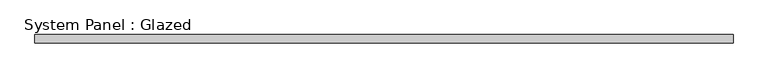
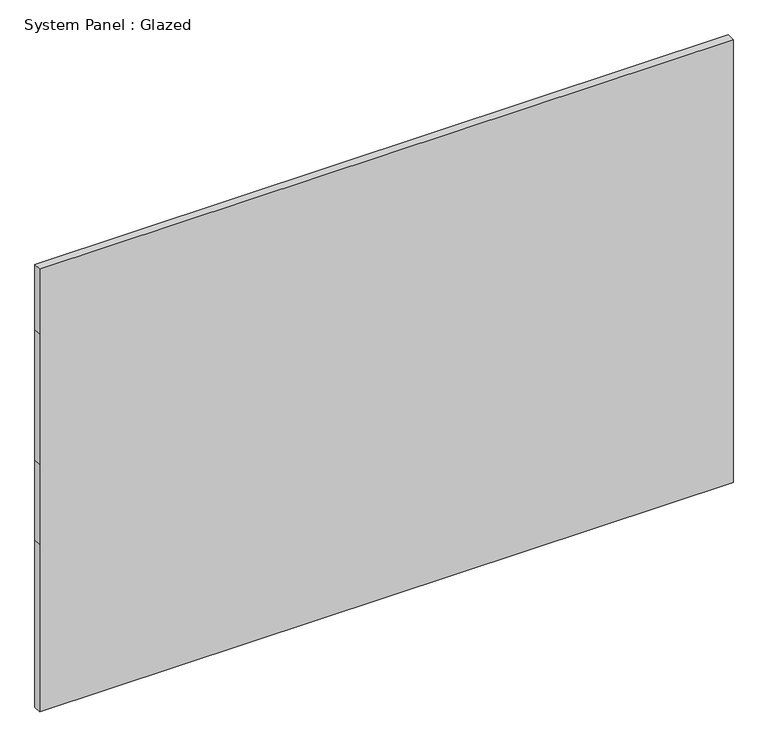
"""IFC4 building model written with IfcOpenShell, lengths in millimetres: plate geometry, System Panel : Glazed."""

from ifc_helpers import new_model, si_unit, frame, origin, place, context, project, spatial, polyline, outline, extrude, source, transform, mapped, element, save


def system_panel_glazed_44ad9f86(model_context):
    return source(origin(), model_context, "Body", "SweptSolid", [
        extrude(outline(polyline([(0.0, -1069.0678573), (0.0, 1069.0678573), (546.1, 1069.0678573), (806.45, 1069.0678573), (1231.9, 1069.0678573), (1444.1527241, 1069.0678573), (1444.1527241, -1069.0678573), (1231.9, -1069.0678573), (806.45, -1069.0678573), (546.1, -1069.0678573), (0.0, -1069.0678573)])), frame((0.0, 19.05, 0.0), z_axis=(0.0, 1.0, 0.0), x_axis=(0.0, 0.0, 1.0)), (0.0, 0.0, 1.0), 25.4),
    ])


if __name__ == "__main__":
    model = new_model("IFC4")
    model_context = context("Model", 3, world=origin())
    ifc_project = project(units=[si_unit("LENGTHUNIT", "METRE", prefix="MILLI")], contexts=[model_context])
    site = spatial("IfcSite", under=ifc_project)
    building = spatial("IfcBuilding", under=site)
    placement = place(None, origin())
    system_panel_glazed_shape = system_panel_glazed_44ad9f86(model_context)
    element("IfcPlate", 1, ObjectType="System Panel : Glazed", at=placement, inside=building, context=model_context, shape_type="MappedRepresentation", body=[
        mapped(system_panel_glazed_shape, transform((0.0, 0.0, 0.0), x_axis=(1.0, 0.0, 0.0), y_axis=(0.0, 1.0, 0.0), z_axis=(0.0, 0.0, 1.0))),
    ])
    save(model, "model.ifc")
